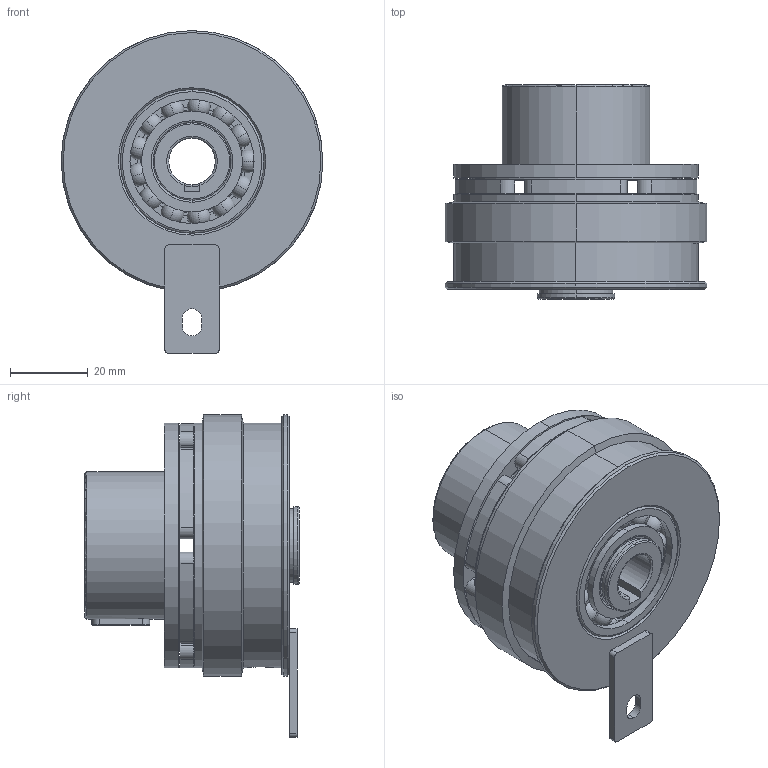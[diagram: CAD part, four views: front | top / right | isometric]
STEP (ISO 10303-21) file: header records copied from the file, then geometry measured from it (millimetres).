
FILE_DESCRIPTION (( 'STEP AP214' ), '1' );
FILE_NAME ('C-S50-R04-12.STEP', '2018-04-27T03:43:38', ( 'tec4' ), ( '' ), 'SwSTEP 2.0', 'SolidWorks 2015', '' );
FILE_SCHEMA (( 'AUTOMOTIVE_DESIGN' ));
Length unit declared in the file: millimetre
Products named in the file (1): C-S50-R04-12
Bounding box: 67.5 x 55.2 x 83.25 mm (x, y, z)
Surface area: 41283.5 mm2 (no closed solid volume)
Topology: 0 solids, 38 shells, 227 faces, 869 edges, 614 vertices
Faces by surface type: cylinder 94, sphere 44, plane 43, cone 25, torus 21
Entity records: 12063 total; most frequent: CARTESIAN_POINT 2437, DIRECTION 1652, ORIENTED_EDGE 1234, EDGE_CURVE 786, AXIS2_PLACEMENT_3D 726, VERTEX_POINT 575, CIRCLE 498, EDGE_LOOP 326
